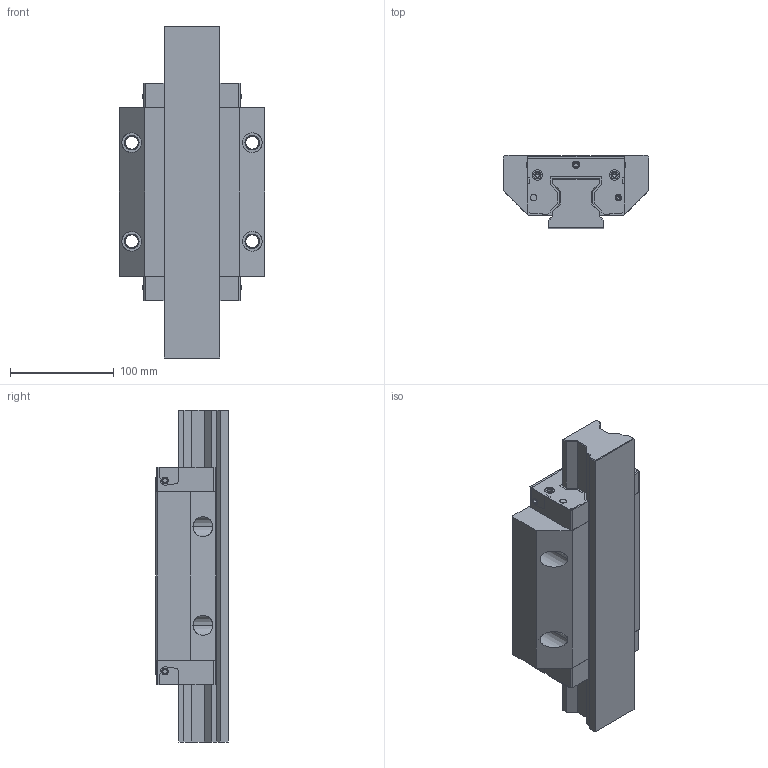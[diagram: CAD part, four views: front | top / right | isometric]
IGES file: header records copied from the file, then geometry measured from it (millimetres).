
Start section: 3D InterOp IGES (v. 2019 1.0.2), Spatial Corp. Copyright (c) 1999-2017.
Global section: file name: R1853_size55.igs; native system: Spatial Corp.; preprocessor: 3D InterOp GENERIC/IGES 3.0; author: Noname; organization: Noname; date: 20220630.112923; units: millimetre
Bounding box: 140 x 70 x 319.65 mm (x, y, z)
Surface area: 236687.2 mm2 (no closed solid volume)
Topology: 0 solids, 0 shells, 546 faces, 2880 edges, 2856 vertices
Faces by surface type: extrusion 338, revolution 208
